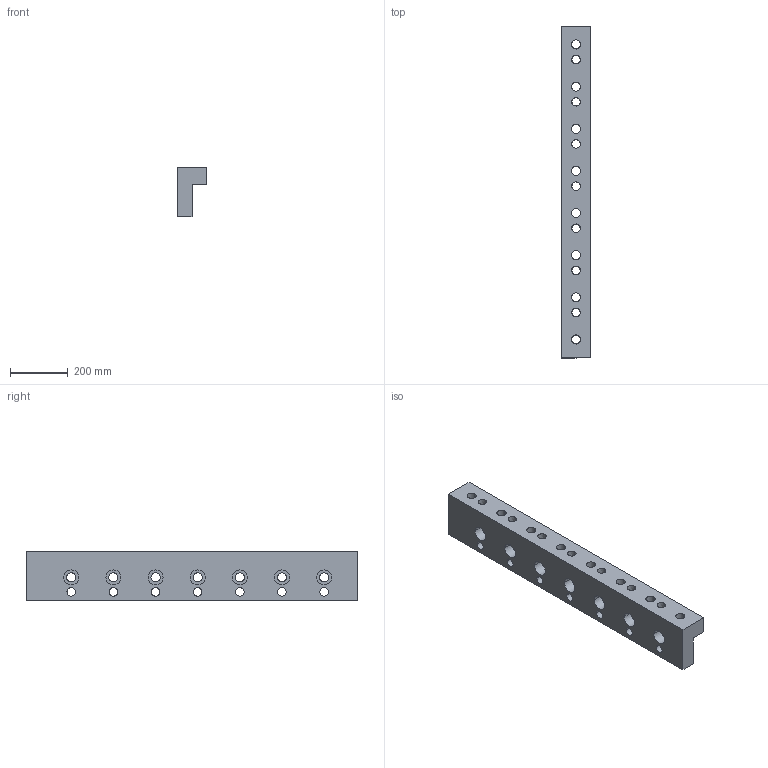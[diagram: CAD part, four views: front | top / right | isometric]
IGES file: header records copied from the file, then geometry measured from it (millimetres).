
Start section:  PTC IGES file: t-bar_bracket.igs
Global section: file name: t-bar_bracket.igs; native system: Pro/ENGINEER by Parametric Technology Corporation; preprocessor: 1999260; author: oshatz; organization: Unknown; date: 000922.101618; units: millimetre
Bounding box: 101.6 x 1149 x 170 mm (x, y, z)
Surface area: 836347.6 mm2 (no closed solid volume)
Topology: 0 solids, 0 shells, 126 faces, 744 edges, 744 vertices
Faces by surface type: revolution 88, bspline 38
